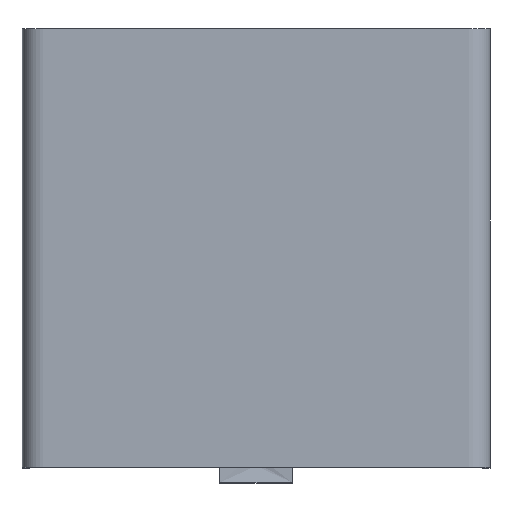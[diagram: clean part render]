
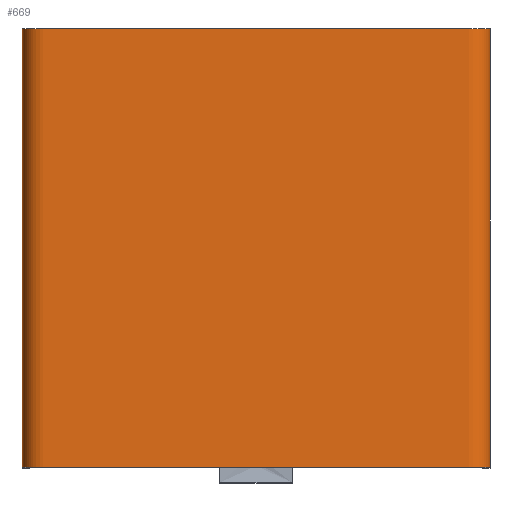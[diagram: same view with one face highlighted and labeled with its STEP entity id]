
A CAD part, top view. The second image highlights one B-rep face of the part: STEP entity #669.
In plain terms, the highlighted free-form (B-spline) face has degree [2, 1] with [11, 2] control points.
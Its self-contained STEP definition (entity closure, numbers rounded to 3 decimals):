
#43=B_SPLINE_CURVE_WITH_KNOTS($,1,(#12019,#12020),.UNSPECIFIED.,.F.,.F.,
(2,2),(0.,450.),.UNSPECIFIED.);
#50=B_SPLINE_CURVE_WITH_KNOTS($,1,(#12066,#12067),.UNSPECIFIED.,.F.,.F.,
(2,2),(0.,450.),.UNSPECIFIED.);
#669=ADVANCED_FACE($,(#1321),#7393,.T.);
#1321=FACE_OUTER_BOUND($,#1973,.T.);
#1973=EDGE_LOOP($,(#2812,#2813,#2814,#2815));
#2812=ORIENTED_EDGE($,*,*,#5344,.F.);
#2813=ORIENTED_EDGE($,*,*,#5345,.T.);
#2814=ORIENTED_EDGE($,*,*,#5346,.T.);
#2815=ORIENTED_EDGE($,*,*,#5355,.F.);
#5344=EDGE_CURVE($,#6620,#6624,#8100,.T.);
#5345=EDGE_CURVE($,#6620,#6621,#43,.T.);
#5346=EDGE_CURVE($,#6621,#6627,#8101,.T.);
#5355=EDGE_CURVE($,#6624,#6627,#50,.T.);
#6620=VERTEX_POINT($,#12116);
#6621=VERTEX_POINT($,#12117);
#6624=VERTEX_POINT($,#12120);
#6627=VERTEX_POINT($,#12123);
#7393=(
BOUNDED_SURFACE()
B_SPLINE_SURFACE(2,1,((#12094,#12095),(#12096,#12097),(#12098,#12099),(#12100,
#12101),(#12102,#12103),(#12104,#12105),(#12106,#12107),(#12108,#12109),
(#12110,#12111),(#12112,#12113),(#12114,#12115)),.UNSPECIFIED.,.F.,.F.,.F.)
B_SPLINE_SURFACE_WITH_KNOTS((3,2,2,2,2,3),(2,2),(-1633.124,-1061.124,
-1037.562,-603.562,-580.,-8.),(0.,450.),.UNSPECIFIED.)
GEOMETRIC_REPRESENTATION_ITEM()
RATIONAL_B_SPLINE_SURFACE(((1.,1.),(1.,1.),(1.,1.),(0.707,0.707),
(1.,1.),(1.,1.),(1.,1.),(0.707,0.707),(1.,1.),(1.,
1.),(1.,1.)))
REPRESENTATION_ITEM($)
SURFACE()
);
#8100=(
BOUNDED_CURVE()
B_SPLINE_CURVE(2,(#12008,#12009,#12010,#12011,#12012,#12013,#12014,#12015,
#12016,#12017,#12018),.UNSPECIFIED.,.F.,.F.)
B_SPLINE_CURVE_WITH_KNOTS((3,2,2,2,2,3),(8.,580.,603.562,1037.562,
1061.124,1633.124),.UNSPECIFIED.)
CURVE()
GEOMETRIC_REPRESENTATION_ITEM()
RATIONAL_B_SPLINE_CURVE((1.,1.,1.,0.707,1.,1.,1.,0.707,
1.,1.,1.))
REPRESENTATION_ITEM($)
);
#8101=(
BOUNDED_CURVE()
B_SPLINE_CURVE(2,(#12021,#12022,#12023,#12024,#12025,#12026,#12027,#12028,
#12029,#12030,#12031),.UNSPECIFIED.,.F.,.F.)
B_SPLINE_CURVE_WITH_KNOTS((3,2,2,2,2,3),(8.,580.,603.562,1037.562,
1061.124,1633.124),.UNSPECIFIED.)
CURVE()
GEOMETRIC_REPRESENTATION_ITEM()
RATIONAL_B_SPLINE_CURVE((1.,1.,1.,0.707,1.,1.,1.,0.707,
1.,1.,1.))
REPRESENTATION_ITEM($)
);
#12008=CARTESIAN_POINT($,(480.,-0.5,79.));
#12009=CARTESIAN_POINT($,(480.,-0.5,365.));
#12010=CARTESIAN_POINT($,(480.,-0.5,651.));
#12011=CARTESIAN_POINT($,(480.,-0.5,674.));
#12012=CARTESIAN_POINT($,(457.,-0.5,674.));
#12013=CARTESIAN_POINT($,(240.,-0.5,674.));
#12014=CARTESIAN_POINT($,(23.,-0.5,674.));
#12015=CARTESIAN_POINT($,(0.,-0.5,674.));
#12016=CARTESIAN_POINT($,(0.,-0.5,651.));
#12017=CARTESIAN_POINT($,(0.,-0.5,365.));
#12018=CARTESIAN_POINT($,(0.,-0.5,79.));
#12019=CARTESIAN_POINT($,(480.,-0.5,79.));
#12020=CARTESIAN_POINT($,(480.,449.5,79.));
#12021=CARTESIAN_POINT($,(480.,449.5,79.));
#12022=CARTESIAN_POINT($,(480.,449.5,365.));
#12023=CARTESIAN_POINT($,(480.,449.5,651.));
#12024=CARTESIAN_POINT($,(480.,449.5,674.));
#12025=CARTESIAN_POINT($,(457.,449.5,674.));
#12026=CARTESIAN_POINT($,(240.,449.5,674.));
#12027=CARTESIAN_POINT($,(23.,449.5,674.));
#12028=CARTESIAN_POINT($,(0.,449.5,674.));
#12029=CARTESIAN_POINT($,(0.,449.5,651.));
#12030=CARTESIAN_POINT($,(0.,449.5,365.));
#12031=CARTESIAN_POINT($,(0.,449.5,79.));
#12066=CARTESIAN_POINT($,(0.,-0.5,79.));
#12067=CARTESIAN_POINT($,(0.,449.5,79.));
#12094=CARTESIAN_POINT($,(0.,-0.5,79.));
#12095=CARTESIAN_POINT($,(0.,449.5,79.));
#12096=CARTESIAN_POINT($,(0.,-0.5,365.));
#12097=CARTESIAN_POINT($,(0.,449.5,365.));
#12098=CARTESIAN_POINT($,(0.,-0.5,651.));
#12099=CARTESIAN_POINT($,(0.,449.5,651.));
#12100=CARTESIAN_POINT($,(0.,-0.5,674.));
#12101=CARTESIAN_POINT($,(0.,449.5,674.));
#12102=CARTESIAN_POINT($,(23.,-0.5,674.));
#12103=CARTESIAN_POINT($,(23.,449.5,674.));
#12104=CARTESIAN_POINT($,(240.,-0.5,674.));
#12105=CARTESIAN_POINT($,(240.,449.5,674.));
#12106=CARTESIAN_POINT($,(457.,-0.5,674.));
#12107=CARTESIAN_POINT($,(457.,449.5,674.));
#12108=CARTESIAN_POINT($,(480.,-0.5,674.));
#12109=CARTESIAN_POINT($,(480.,449.5,674.));
#12110=CARTESIAN_POINT($,(480.,-0.5,651.));
#12111=CARTESIAN_POINT($,(480.,449.5,651.));
#12112=CARTESIAN_POINT($,(480.,-0.5,365.));
#12113=CARTESIAN_POINT($,(480.,449.5,365.));
#12114=CARTESIAN_POINT($,(480.,-0.5,79.));
#12115=CARTESIAN_POINT($,(480.,449.5,79.));
#12116=CARTESIAN_POINT($,(480.,-0.5,79.));
#12117=CARTESIAN_POINT($,(480.,449.5,79.));
#12120=CARTESIAN_POINT($,(0.,-0.5,79.));
#12123=CARTESIAN_POINT($,(0.,449.5,79.));
